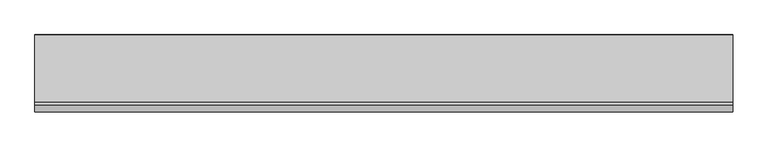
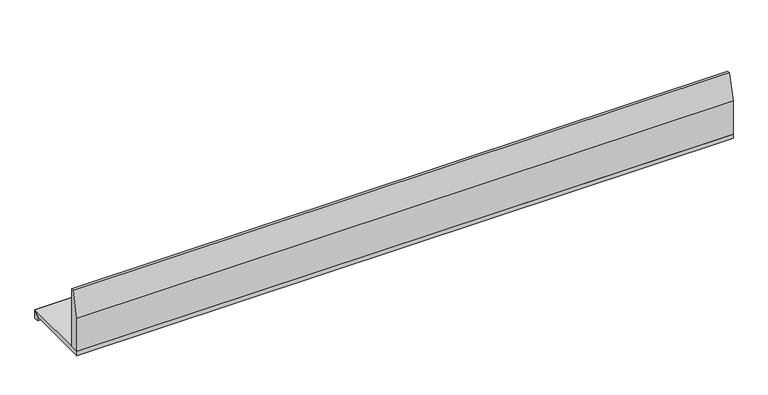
"""IFC4 building model written with IfcOpenShell, lengths in millimetres: proxy geometry, AERO^OFFICE 3_108 WALL HUNG-SHELF."""

from ifc_helpers import new_model, si_unit, frame, origin, place, context, project, spatial, polyline, outline, extrude, source, transform, mapped, element, save


def generic_models_b5482eb1(model_context):
    return source(origin(), model_context, "Body", "SweptSolid", [
        extrude(outline(polyline([(285.75, -38.1), (285.75, -19.05), (304.8, 0.0), (304.8, -38.1), (285.75, -38.1)])), frame((0.0, 0.0, 0.0), z_axis=(1.0, 0.0, 0.0), x_axis=(0.0, 1.0, 0.0)), (0.0, 0.0, 1.0), 2743.2),
        extrude(outline(polyline([(0.0, 147.3566482), (28.575, 254.0), (38.1, 254.0), (38.1, 0.0), (0.0, 0.0), (0.0, 147.3566482)])), frame((0.0, 0.0, 0.0), z_axis=(1.0, 0.0, 0.0), x_axis=(0.0, 1.0, 0.0)), (0.0, 0.0, 1.0), 2743.2),
        extrude(outline(polyline([(304.8, 0.0), (285.75, -19.05), (0.0, -19.05), (0.0, 0.0), (304.8, 0.0)])), frame((0.0, 0.0, 0.0), z_axis=(1.0, 0.0, 0.0), x_axis=(0.0, 1.0, 0.0)), (0.0, 0.0, 1.0), 2743.2),
    ])


if __name__ == "__main__":
    model = new_model("IFC4")
    model_context = context("Model", 3, world=origin())
    ifc_project = project(units=[si_unit("LENGTHUNIT", "METRE", prefix="MILLI")], contexts=[model_context])
    site = spatial("IfcSite", under=ifc_project)
    building = spatial("IfcBuilding", under=site)
    placement = place(None, origin())
    generic_models_shape = generic_models_b5482eb1(model_context)
    element("IfcBuildingElementProxy", 1, Name="AERO^OFFICE 3_108 WALL HUNG-SHELF", ObjectType="AERO^OFFICE 3_108 WALL HUNG-SHELF", at=placement, inside=building, context=model_context, shape_type="MappedRepresentation", body=[
        mapped(generic_models_shape, transform((0.0, 0.0, 0.0), x_axis=(1.0, 0.0, 0.0), y_axis=(0.0, 1.0, 0.0), z_axis=(0.0, 0.0, 1.0))),
    ])
    save(model, "model.ifc")
